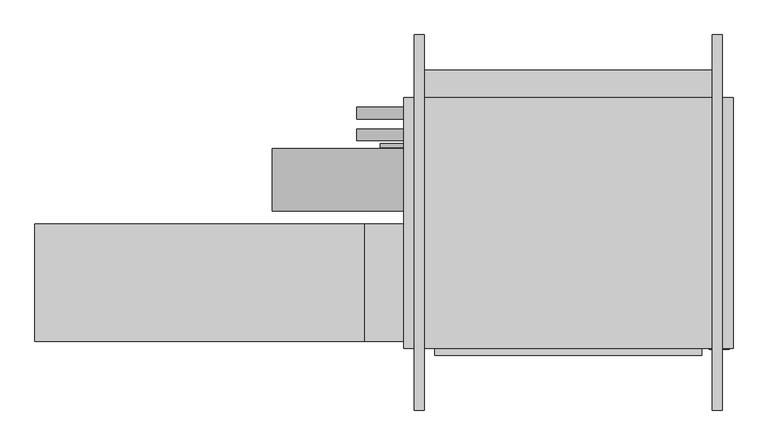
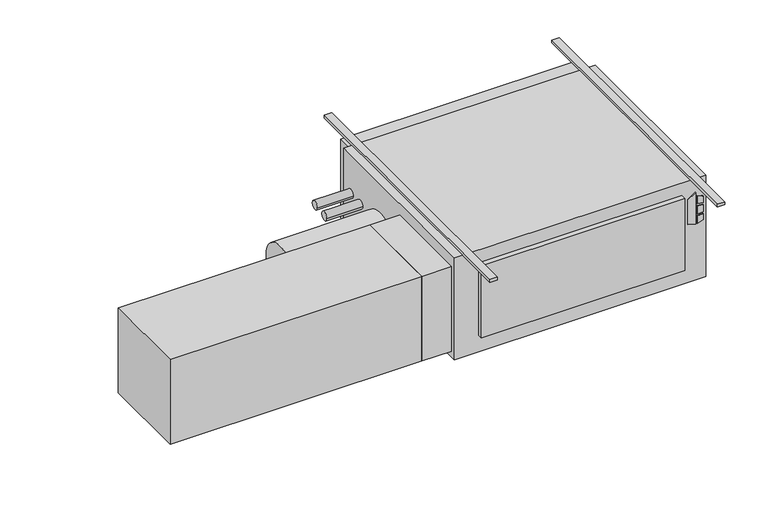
"""IFC4 building model written with IfcOpenShell, lengths in millimetres: proxy geometry."""

from ifc_helpers import new_model, si_unit, point, frame, frame_2d, origin, origin_with_axes, place, context, project, spatial, polyline, circle_curve, trimmed, segment, composite_curve, outline, extrude, source, transform, mapped, element, save


def mechanical_equipment_dc8cdb3c(model_context):
    return source(origin(), model_context, "Body", "SweptSolid", [
        extrude(outline(polyline([(-193.2519297, 608.0868862), (-203.2, 640.2602728), (-61.0290756, 640.2602728), (-84.0510817, 608.0868862), (-193.2519297, 608.0868862)])), frame((0.0, -647.7, 0.0), z_axis=(0.0, 1.0, 0.0), x_axis=(0.0, 0.0, 1.0)), (0.0, 0.0, 1.0), 3.175),
        extrude(outline(polyline([(-114.2526443, 647.0186058), (-117.4550368, 673.1), (-88.2261958, 673.1), (-80.1617807, 647.0186058), (-114.2526443, 647.0186058)])), frame((0.0, -647.7, 0.0), z_axis=(0.0, 1.0, 0.0), x_axis=(0.0, 0.0, 1.0)), (0.0, 0.0, 1.0), 3.175),
        extrude(outline(polyline([(-166.1161712, 673.1), (-169.7816721, 647.0186058), (-203.2, 647.0186058), (-194.5657628, 673.1), (-166.1161712, 673.1)])), frame((0.0, -647.7, 0.0), z_axis=(0.0, 1.0, 0.0), x_axis=(0.0, 0.0, 1.0)), (0.0, 0.0, 1.0), 3.175),
        extrude(outline(polyline([(-126.8010097, 673.1), (-124.5191834, 647.0186058), (-160.4567319, 647.0186058), (-157.7154669, 673.1), (-126.8010097, 673.1)])), frame((0.0, -647.7, 0.0), z_axis=(0.0, 1.0, 0.0), x_axis=(0.0, 0.0, 1.0)), (0.0, 0.0, 1.0), 3.175),
        extrude(outline(polyline([(584.2, -666.877), (-279.4, -666.877), (-279.4, -644.525), (584.2, -644.525), (584.2, -666.877)])), frame((0.0, 0.0, -381.0), z_axis=(0.0, 0.0, 1.0), x_axis=(1.0, 0.0, 0.0)), (0.0, 0.0, 1.0), 323.85),
        extrude(outline(polyline([(-1574.8, -622.3), (-1574.8, -241.3), (-508.0, -241.3), (-508.0, -622.3), (-1574.8, -622.3)])), frame((0.0, 0.0, -431.8), z_axis=(0.0, 0.0, 1.0), x_axis=(1.0, 0.0, 0.0)), (0.0, 0.0, 1.0), 381.0),
        extrude(outline(polyline([(-381.0, -241.3), (-381.0, -622.3), (-508.0, -622.3), (-508.0, -241.3), (-381.0, -241.3)])), frame((0.0, 0.0, -431.8), z_axis=(0.0, 0.0, 1.0), x_axis=(1.0, 0.0, 0.0)), (0.0, 0.0, 1.0), 381.0),
        extrude(outline(composite_curve([segment(trimmed(circle_curve(frame_2d((-98.4896516, -228.6360165)), 101.6), [point((-200.0896516, -228.6360165))], [point((3.1103484, -228.6360165))], False, "CARTESIAN"), True, "CONTINUOUS"), segment(trimmed(circle_curve(frame_2d((-98.4896516, -228.6360165)), 101.6), [point((3.1103484, -228.6360165))], [point((-200.0896516, -228.6360165))], False, "CARTESIAN"), True, "CONTINUOUS")], self_intersect=False)), frame((-806.45, 0.0, 0.0), z_axis=(1.0, 0.0, 0.0), x_axis=(0.0, 1.0, 0.0)), (0.0, 0.0, 1.0), 425.45),
        extrude(outline(composite_curve([segment(trimmed(circle_curve(frame_2d((47.625, -177.8)), 19.05), [point((28.575, -177.8))], [point((66.675, -177.8))], False, "CARTESIAN"), True, "CONTINUOUS"), segment(trimmed(circle_curve(frame_2d((47.625, -177.8)), 19.05), [point((66.675, -177.8))], [point((28.575, -177.8))], False, "CARTESIAN"), True, "CONTINUOUS")], self_intersect=False)), frame((-533.4, 0.0, 0.0), z_axis=(1.0, 0.0, 0.0), x_axis=(0.0, 1.0, 0.0)), (0.0, 0.0, 1.0), 152.4),
        extrude(outline(composite_curve([segment(trimmed(circle_curve(frame_2d((117.475, -171.45)), 19.05), [point((98.425, -171.45))], [point((136.525, -171.45))], False, "CARTESIAN"), True, "CONTINUOUS"), segment(trimmed(circle_curve(frame_2d((117.475, -171.45)), 19.05), [point((136.525, -171.45))], [point((98.425, -171.45))], False, "CARTESIAN"), True, "CONTINUOUS")], self_intersect=False)), frame((-533.4, 0.0, 0.0), z_axis=(1.0, 0.0, 0.0), x_axis=(0.0, 1.0, 0.0)), (0.0, 0.0, 1.0), 152.4),
        extrude(outline(composite_curve([segment(trimmed(circle_curve(frame_2d((12.7, -409.575)), 6.35), [point((6.35, -409.575))], [point((19.05, -409.575))], False, "CARTESIAN"), True, "CONTINUOUS"), segment(trimmed(circle_curve(frame_2d((12.7, -409.575)), 6.35), [point((19.05, -409.575))], [point((6.35, -409.575))], False, "CARTESIAN"), True, "CONTINUOUS")], self_intersect=False)), frame((-457.2, 0.0, 0.0), z_axis=(1.0, 0.0, 0.0), x_axis=(0.0, 1.0, 0.0)), (0.0, 0.0, 1.0), 76.2),
        extrude(outline(polyline([(685.8, 168.275), (685.8, -644.525), (-381.0, -644.525), (-381.0, 168.275), (685.8, 168.275)])), frame((0.0, 0.0, -457.2), z_axis=(0.0, 0.0, 1.0), x_axis=(1.0, 0.0, 0.0)), (0.0, 0.0, 1.0), 457.2),
        extrude(outline(polyline([(-342.9, 257.175), (647.7, 257.175), (647.7, 168.275), (-342.9, 168.275), (-342.9, 257.175)])), frame((0.0, 0.0, -381.0), z_axis=(0.0, 0.0, 1.0), x_axis=(1.0, 0.0, 0.0)), (0.0, 0.0, 1.0), 355.6),
        extrude(outline(polyline([(-314.325, 371.475), (-314.325, -844.677), (-346.075, -844.677), (-346.075, 371.475), (-314.325, 371.475)])), origin_with_axes(), (0.0, 0.0, 1.0), 12.7),
        extrude(outline(polyline([(650.875, 371.475), (650.875, -844.677), (619.125, -844.677), (619.125, 371.475), (650.875, 371.475)])), origin_with_axes(), (0.0, 0.0, 1.0), 12.7),
    ])


if __name__ == "__main__":
    model = new_model("IFC4")
    model_context = context("Model", 3, world=origin())
    ifc_project = project(units=[si_unit("LENGTHUNIT", "METRE", prefix="MILLI")], contexts=[model_context])
    site = spatial("IfcSite", under=ifc_project)
    building = spatial("IfcBuilding", under=site)
    placement = place(None, origin())
    mechanical_equipment_shape = mechanical_equipment_dc8cdb3c(model_context)
    element("IfcBuildingElementProxy", 1, Name="High_Capacity_Horizontal_Cabinet_Fan_Coil_Unit_-_HTY_-_IEC_-_2-Pipe_WO-Attenuator_LH Side_2022 : Size 14 - 277v/60Hz/1Ph - 8/0 Coil - 8\" AirIn", ObjectType="High_Capacity_Horizontal_Cabinet_Fan_Coil_Unit_-_HTY_-_IEC_-_2-Pipe_WO-Attenuator_LH Side_2022 : Size 14 - 277v/60Hz/1Ph - 8/0 Coil - 8\" AirIn", at=placement, inside=building, context=model_context, shape_type="MappedRepresentation", body=[
        mapped(mechanical_equipment_shape, transform((0.0, 0.0, 0.0), x_axis=(1.0, 0.0, 0.0), y_axis=(0.0, 1.0, 0.0), z_axis=(0.0, 0.0, 1.0))),
    ])
    save(model, "model.ifc")
